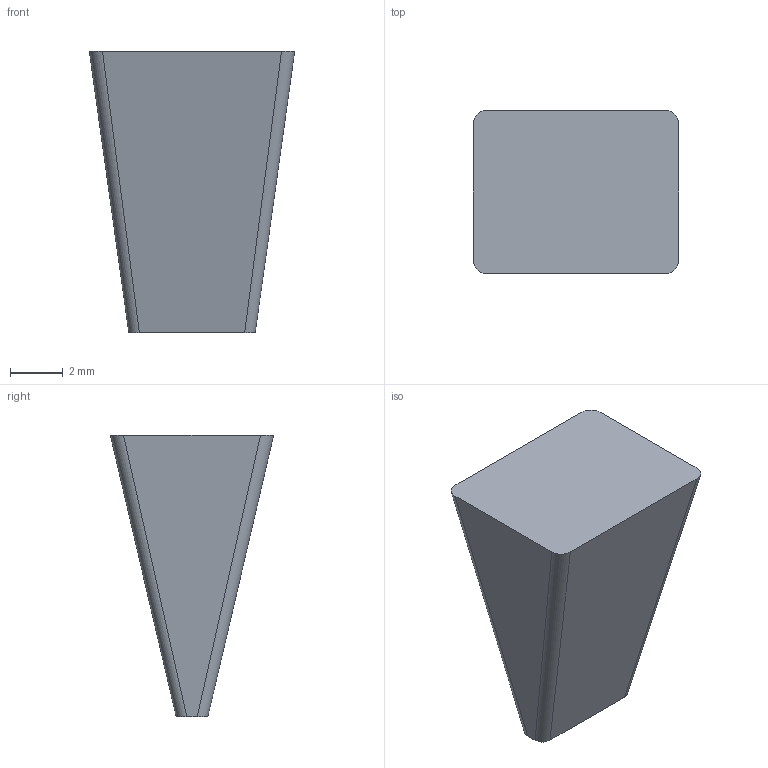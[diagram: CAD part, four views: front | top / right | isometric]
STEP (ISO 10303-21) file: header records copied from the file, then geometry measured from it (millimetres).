
FILE_DESCRIPTION(('Open CASCADE Model'),'2;1');
FILE_NAME('Open CASCADE Shape Model','2026-09-15T13:40:31',('Author'),( 'Open CASCADE'),'Open CASCADE STEP processor 7.7','Open CASCADE 7.7' ,'Unknown');
FILE_SCHEMA(('AUTOMOTIVE_DESIGN { 1 0 10303 214 1 1 1 1 }'));
Length unit declared in the file: millimetre
Products named in the file (1): COMPOUND
Bounding box: 7.8 x 6.2 x 10.71 mm (x, y, z)
Volume: 261.2 mm3; surface area: 264.2 mm2
Topology: 1 solids, 1 shells, 10 faces, 24 edges, 16 vertices
Faces by surface type: bspline 8, plane 2
Entity records: 654 total; most frequent: CARTESIAN_POINT 183, DIRECTION 74, ORIENTED_EDGE 48, PCURVE 48, DEFINITIONAL_REPRESENTATION 48, LINE 44, VECTOR 44, EDGE_CURVE 24
